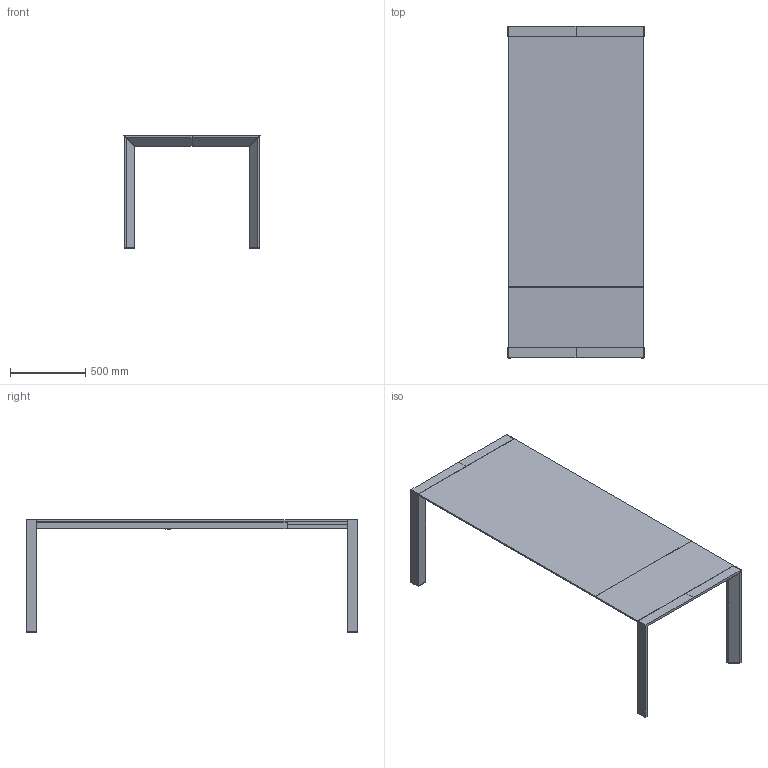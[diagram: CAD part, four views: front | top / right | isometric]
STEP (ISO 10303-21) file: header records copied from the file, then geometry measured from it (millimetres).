
FILE_DESCRIPTION(/* description */ (''),/* implementation_level */ '2;1');
FILE_NAME(/* name */ '10672 - Afill 180+40x90',/* time_stamp */ '2010-11-03T15:13:46+01:00',/* author */ (''),/* organization */ (''),/* preprocessor_version */ 'ST-DEVELOPER v10',/* originating_system */ '',/* authorisation */ '');
FILE_SCHEMA (('CONFIG_CONTROL_DESIGN'));
Length unit declared in the file: centimetre
Products named in the file (1): 1
Bounding box: 902.24 x 2200.6 x 751.1 mm (x, y, z)
Volume: 48808510.8 mm3; surface area: 7125203.2 mm2
Topology: 14 solids, 14 shells, 166 faces, 380 edges, 250 vertices
Faces by surface type: plane 166
Entity records: 4158 total; most frequent: CARTESIAN_POINT 1258, ORIENTED_EDGE 760, EDGE_CURVE 380, B_SPLINE_CURVE_WITH_KNOTS 380, VERTEX_POINT 250, EDGE_LOOP 174, DIRECTION 170, AXIS2_PLACEMENT_3D 168
